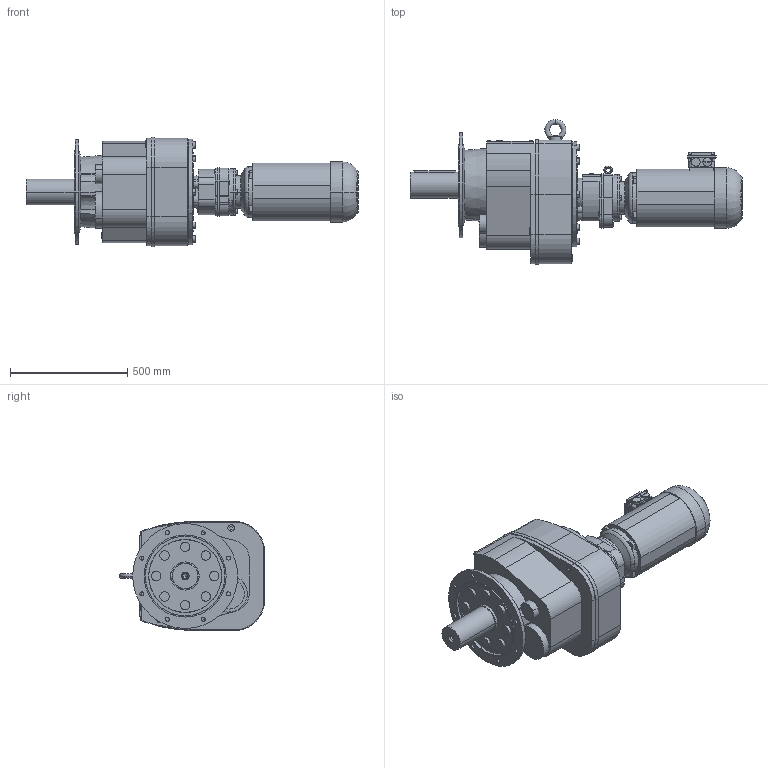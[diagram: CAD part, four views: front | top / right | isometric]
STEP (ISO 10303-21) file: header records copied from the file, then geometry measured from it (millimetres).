
FILE_DESCRIPTION(('STEP AP214'),'1');
FILE_NAME('STEP-File.stp','2018-01-01T00:00:00',(' '),('KEB'),' ','KEB-DRIVE',' ');
FILE_SCHEMA(('AUTOMOTIVE_DESIGN { 1 0 10303 214 1 1 1 1 }'));
Length unit declared in the file: millimetre
Products named in the file (12): g9b; w9_we_110x210; c9_450; fp4-c9; g4b; ca4; dm132_kkn; kk10; PLUG_M32; SCREW-PLUG_M32; ndm132; G93G42C DM132MB4§CAD13
Assembly tree (11 placements, depth 2):
  G93G42C DM132MB4§CAD13
    g9b
    w9_we_110x210
    c9_450
    fp4-c9
    g4b
    ca4
    dm132_kkn
    kk10
    PLUG_M32
    SCREW-PLUG_M32
    ndm132
Bounding box: 1416.5 x 618.5 x 466 mm (x, y, z)
Volume: 119187476.3 mm3; surface area: 3016127.9 mm2
Topology: 11 solids, 11 shells, 553 faces, 1365 edges, 905 vertices
Faces by surface type: plane 285, cylinder 199, cone 36, torus 25, bspline 8
Entity records: 24211 total; most frequent: CARTESIAN_POINT 11296, ORIENTED_EDGE 2726, DIRECTION 2412, EDGE_CURVE 1363, VERTEX_POINT 905, AXIS2_PLACEMENT_3D 845, VECTOR 722, LINE 722
